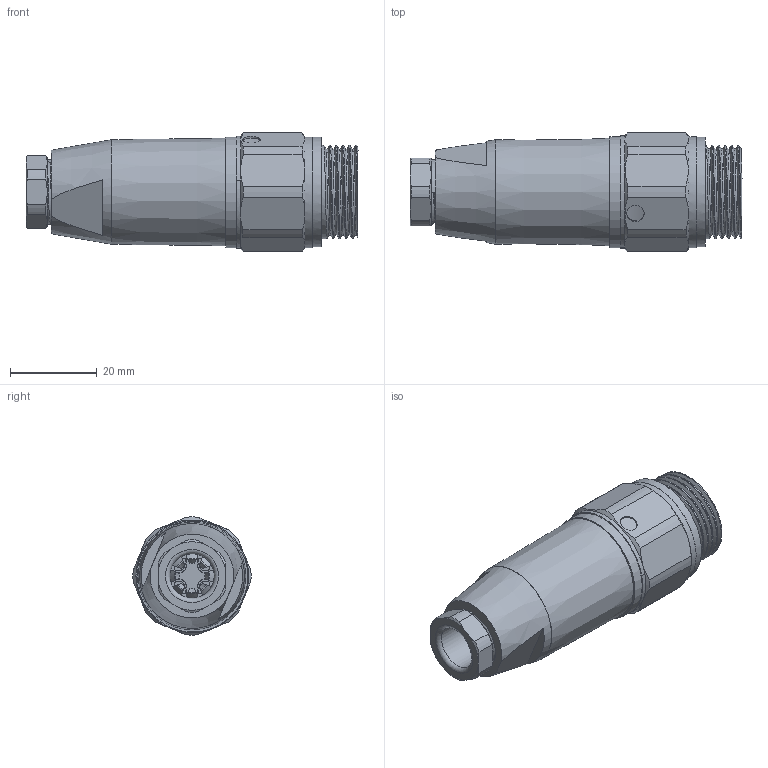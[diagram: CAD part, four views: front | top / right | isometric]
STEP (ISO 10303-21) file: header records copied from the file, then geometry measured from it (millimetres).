
FILE_DESCRIPTION(/* description */ (''),/* implementation_level */ '2;1');
FILE_NAME(/* name */ '7 8 4MS-PG9_stp_stp.stp',/* time_stamp */ '2024-09-14T08:42:07+08:00',/* author */ (''),/* organization */ (''),/* preprocessor_version */ 'ST-DEVELOPER v16.7',/* originating_system */ 'SIEMENS PLM Software NX 12.0',/* authorisation */ '');
FILE_SCHEMA (('AP203_CONFIGURATION_CONTROLLED_3D_DESIGN_OF_MECHANICAL_PARTS_AND_ASSEMBLIES_MIM_LF { 1 0 10303 403 2 1 2}'));
Length unit declared in the file: millimetre
Products named in the file (1): lyj2CF02B19s1s7
Bounding box: 76.33 x 27.2 x 27.2 mm (x, y, z)
Surface area: 14141 mm2
Topology: 4 solids, 5 shells, 428 faces, 1234 edges, 819 vertices
Faces by surface type: cylinder 138, plane 134, cone 67, bspline 64, torus 19, revolution 6
Full cylindrical faces by diameter (mm): 2 x8, 2.7 x4, 3.1 x4, 3.3 x4, 4 x1, 8.8 x1, 9 x1, 10.2 x1, 13.2 x1, 13.86 x1, 18 x1, 18.3 x1, 20.26 x4, 25.2 x1, 25.5 x2
Entity records: 36467 total; most frequent: CARTESIAN_POINT 26421, ORIENTED_EDGE 2280, DIRECTION 1669, EDGE_CURVE 1140, VERTEX_POINT 778, AXIS2_PLACEMENT_3D 633, EDGE_LOOP 518, B_SPLINE_CURVE_WITH_KNOTS 470
